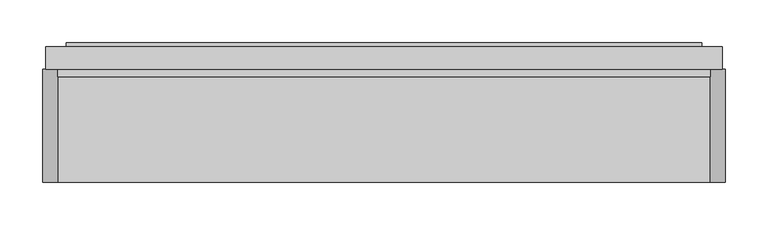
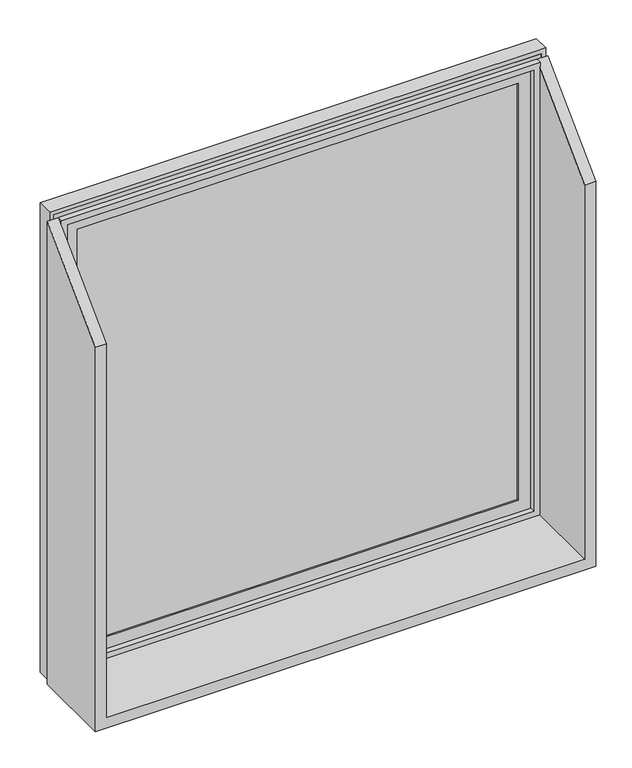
"""IFC4 building model written with IfcOpenShell, lengths in millimetres: plate geometry, SCISSOR PANEL : SCISSOR PANEL."""

from ifc_helpers import new_model, si_unit, frame, origin, place, context, project, spatial, polyline, outline, extrude, faceted_brep, source, transform, mapped, element, save


def plate_f6789e8c(model_context):
    return source(origin(), model_context, "Body", "SolidModel", [
        faceted_brep([(400.0, 132.5, 0.0), (-400.0, 132.5, 0.0), (-400.0, 132.5, 782.5), (-382.5, 132.5, 782.5), (-382.5, 132.5, 17.5), (382.5, 132.5, 17.5), (382.5, 132.5, 782.5), (400.0, 132.5, 782.5), (-382.5, 0.0, 650.0), (-382.5, 0.0, 17.5), (382.5, 0.0, 17.5), (382.5, 0.0, 650.0), (400.0, 0.0, 650.0), (-400.0, 0.0, 650.0), (-400.0, 0.0, 0.0), (400.0, 0.0, 0.0)], [[[0, 1, 2, 3, 4, 5, 6, 7]], [[4, 3, 8, 9]], [[6, 5, 10, 11]], [[11, 12, 7, 6]], [[13, 8, 3, 2]], [[14, 15, 12, 11, 10, 9, 8, 13]], [[1, 14, 13, 2]], [[15, 14, 1, 0]], [[15, 0, 7, 12]], [[9, 10, 5, 4]]]),
        extrude(outline(polyline([(-369.5, 160.5), (369.5, 160.5), (369.5, 135.5), (-369.5, 135.5), (-369.5, 160.5)])), frame((0.0, 0.0, 30.5), z_axis=(0.0, 0.0, 1.0), x_axis=(1.0, 0.0, 0.0)), (0.0, 0.0, 1.0), 739.0),
        faceted_brep([(-352.5, 135.5, 752.5), (-352.5, 132.5, 752.5), (-352.5, 132.5, 47.5), (-352.5, 135.5, 47.5), (-369.5, 160.5, 769.5), (-369.5, 135.5, 769.5), (-369.5, 135.5, 30.5), (-369.5, 160.5, 30.5), (-352.5, 163.5, 752.5), (-352.5, 160.5, 752.5), (-352.5, 160.5, 47.5), (-352.5, 163.5, 47.5), (-372.5, 132.5, 772.5), (-372.5, 163.5, 772.5), (-372.5, 163.5, 27.5), (-372.5, 132.5, 27.5), (352.5, 132.5, 47.5), (352.5, 135.5, 47.5), (369.5, 135.5, 30.5), (369.5, 160.5, 30.5), (352.5, 160.5, 47.5), (352.5, 163.5, 47.5), (372.5, 163.5, 27.5), (372.5, 132.5, 27.5), (352.5, 132.5, 752.5), (352.5, 135.5, 752.5), (369.5, 135.5, 769.5), (369.5, 160.5, 769.5), (352.5, 160.5, 752.5), (352.5, 163.5, 752.5), (372.5, 163.5, 772.5), (372.5, 132.5, 772.5)], [[[0, 1, 2, 3]], [[4, 5, 6, 7]], [[8, 9, 10, 11]], [[12, 13, 14, 15]], [[3, 2, 16, 17]], [[7, 6, 18, 19]], [[11, 10, 20, 21]], [[15, 14, 22, 23]], [[17, 16, 24, 25]], [[19, 18, 26, 27]], [[21, 20, 28, 29]], [[23, 22, 30, 31]], [[15, 23, 31, 12], [1, 24, 16, 2]], [[25, 24, 1, 0]], [[5, 26, 18, 6], [3, 17, 25, 0]], [[27, 26, 5, 4]], [[7, 19, 27, 4], [9, 28, 20, 10]], [[29, 28, 9, 8]], [[13, 30, 22, 14], [11, 21, 29, 8]], [[31, 30, 13, 12]]]),
        faceted_brep([(-396.5, 132.5, 796.5), (-396.5, 158.75, 796.5), (-396.5, 158.75, 3.5), (-396.5, 132.5, 3.5), (-389.5, 150.0, 789.5), (-389.5, 132.5, 789.5), (-389.5, 132.5, 10.5), (-389.5, 150.0, 10.5), (-382.5, 123.75, 782.5), (-382.5, 150.0, 782.5), (-382.5, 150.0, 17.5), (-382.5, 123.75, 17.5), (-372.5, 158.75, 772.5), (-372.5, 123.75, 772.5), (-372.5, 123.75, 27.5), (-372.5, 158.75, 27.5), (396.5, 158.75, 3.5), (396.5, 132.5, 3.5), (389.5, 132.5, 10.5), (389.5, 150.0, 10.5), (382.5, 150.0, 17.5), (382.5, 123.75, 17.5), (372.5, 123.75, 27.5), (372.5, 158.75, 27.5), (396.5, 158.75, 796.5), (396.5, 132.5, 796.5), (389.5, 132.5, 789.5), (389.5, 150.0, 789.5), (382.5, 150.0, 782.5), (382.5, 123.75, 782.5), (372.5, 123.75, 772.5), (372.5, 158.75, 772.5)], [[[0, 1, 2, 3]], [[4, 5, 6, 7]], [[8, 9, 10, 11]], [[12, 13, 14, 15]], [[3, 2, 16, 17]], [[7, 6, 18, 19]], [[11, 10, 20, 21]], [[15, 14, 22, 23]], [[17, 16, 24, 25]], [[19, 18, 26, 27]], [[21, 20, 28, 29]], [[23, 22, 30, 31]], [[25, 24, 1, 0]], [[3, 17, 25, 0], [5, 26, 18, 6]], [[27, 26, 5, 4]], [[7, 19, 27, 4], [9, 28, 20, 10]], [[29, 28, 9, 8]], [[11, 21, 29, 8], [13, 30, 22, 14]], [[31, 30, 13, 12]], [[1, 24, 16, 2], [15, 23, 31, 12]]]),
        extrude(outline(polyline([(789.5, -389.5), (10.5, -389.5), (10.5, 389.5), (789.5, 389.5), (789.5, -389.5)]), holes=[polyline([(782.5, -382.5), (782.5, 382.5), (17.5, 382.5), (17.5, -382.5), (782.5, -382.5)])]), frame((0.0, 132.5, 0.0), z_axis=(0.0, 1.0, 0.0), x_axis=(0.0, 0.0, 1.0)), (0.0, 0.0, 1.0), 17.5),
    ])


if __name__ == "__main__":
    model = new_model("IFC4")
    model_context = context("Model", 3, world=origin())
    ifc_project = project(units=[si_unit("LENGTHUNIT", "METRE", prefix="MILLI")], contexts=[model_context])
    site = spatial("IfcSite", under=ifc_project)
    building = spatial("IfcBuilding", under=site)
    placement = place(None, origin())
    plate_shape = plate_f6789e8c(model_context)
    element("IfcPlate", 1, ObjectType="SCISSOR PANEL : SCISSOR PANEL", at=placement, inside=building, context=model_context, shape_type="MappedRepresentation", body=[
        mapped(plate_shape, transform((0.0, 0.0, 0.0), x_axis=(1.0, 0.0, 0.0), y_axis=(0.0, 1.0, 0.0), z_axis=(0.0, 0.0, 1.0))),
    ])
    save(model, "model.ifc")
